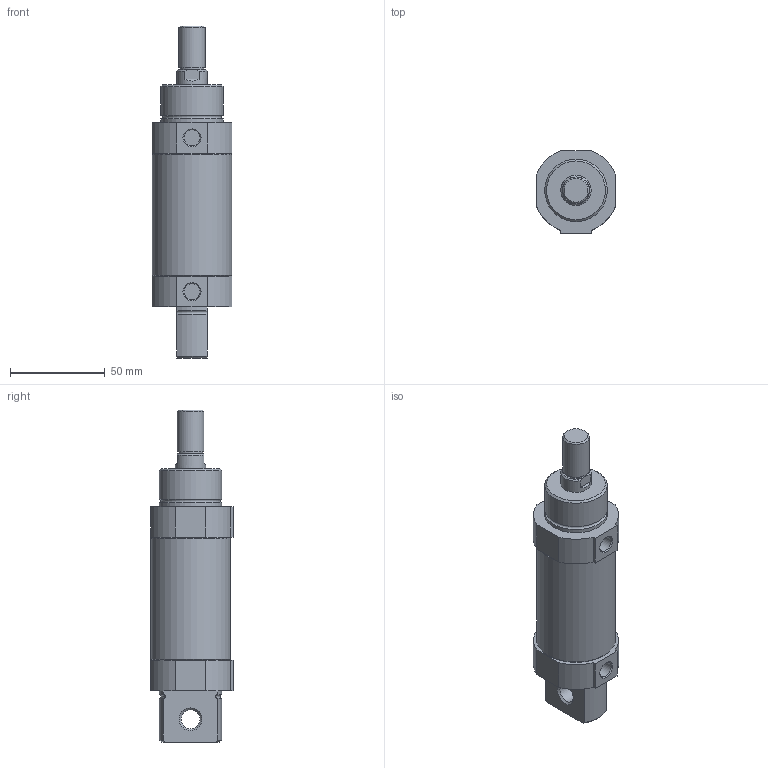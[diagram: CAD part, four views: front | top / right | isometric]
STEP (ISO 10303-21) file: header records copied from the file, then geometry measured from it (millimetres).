
FILE_DESCRIPTION((''),'2;1');
FILE_NAME('I:\3D電子目錄\氣缸\SDA\SDA40\SDA40\SDA40x25.stp','2007-08-06T10:36:44',('Administrator'),(''),'Autodesk Inventor 2008','Autodesk Inventor 2008','');
FILE_SCHEMA(('AUTOMOTIVE_DESIGN { 1 0 10303 214 1 1 1 1 }'));
Length unit declared in the file: millimetre
Products named in the file (1): SDA40X25
Bounding box: 42 x 43.5 x 175 mm (x, y, z)
Volume: 171908 mm3; surface area: 23591.4 mm2
Topology: 1 solids, 1 shells, 65 faces, 152 edges, 98 vertices
Faces by surface type: plane 27, cylinder 21, cone 12, torus 3, bspline 2
Full cylindrical faces by diameter (mm): 8.5 x2, 10 x1, 12.6 x1, 14 x1, 16 x1, 33 x2, 41.8 x1
Entity records: 1946 total; most frequent: CARTESIAN_POINT 486, DIRECTION 306, ORIENTED_EDGE 266, EDGE_CURVE 133, AXIS2_PLACEMENT_3D 121, VERTEX_POINT 97, EDGE_LOOP 94, FACE_OUTER_BOUND 65
